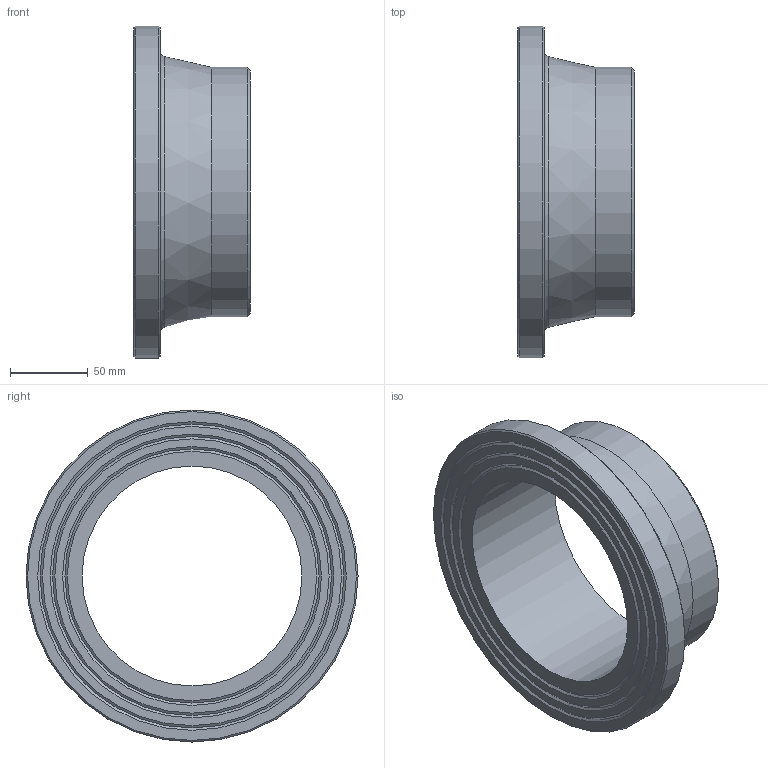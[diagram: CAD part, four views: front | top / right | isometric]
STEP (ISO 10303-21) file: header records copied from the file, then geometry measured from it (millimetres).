
FILE_DESCRIPTION(/* description */ ('Unknown'),/* implementation_level */ '2;1');
FILE_NAME(/* name */ 'CCP160B',/* time_stamp */ '2022-04-05T09:20:09+02:00',/* author */ ('Unknown'),/* organization */ ('Unknown'),/* preprocessor_version */ 'ST-DEVELOPER v18.1',/* originating_system */ 'Solid Edge',/* authorisation */ 'Unknown');
FILE_SCHEMA (('AUTOMOTIVE_DESIGN {1 0 10303 214 3 1 1}'));
Length unit declared in the file: millimetre
Products named in the file (1): CCP160B
Bounding box: 75 x 213 x 213 mm (x, y, z)
Volume: 661630.3 mm3; surface area: 110353.6 mm2
Topology: 1 solids, 1 shells, 20 faces, 35 edges, 21 vertices
Faces by surface type: cone 10, plane 6, cylinder 3, torus 1
Full cylindrical faces by diameter (mm): 141 x1, 160 x1, 213 x1
Entity records: 438 total; most frequent: DIRECTION 82, CARTESIAN_POINT 61, AXIS2_PLACEMENT_3D 41, ORIENTED_EDGE 40, EDGE_LOOP 40, FACE_BOUND 40, EDGE_CURVE 20, VERTEX_POINT 20
